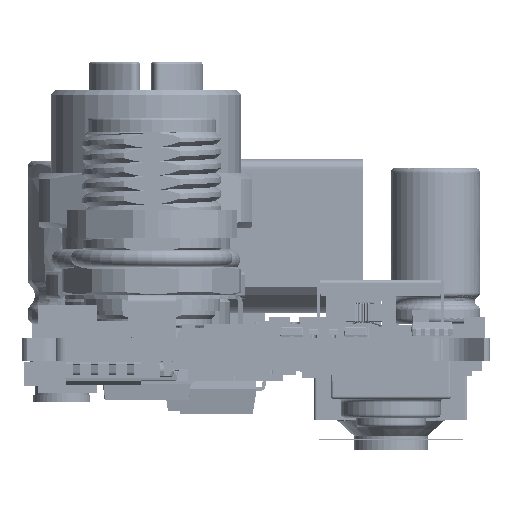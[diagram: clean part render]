
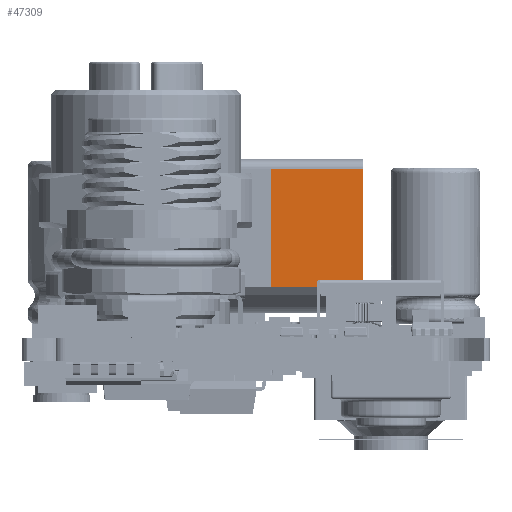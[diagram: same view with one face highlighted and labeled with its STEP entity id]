
A CAD part, left-side view. The second image highlights one B-rep face of the part: STEP entity #47309.
In plain terms, the highlighted planar face has unit normal (-1, 0, 0) as drawn and (1, 0, 0) by its records, which use the part's own axes.
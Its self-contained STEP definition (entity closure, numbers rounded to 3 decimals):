
#47226 = VERTEX_POINT('',#47227);
#47227 = CARTESIAN_POINT('',(6.4,6.5,0.));
#47233 = EDGE_CURVE('',#47226,#47234,#47236,.T.);
#47234 = VERTEX_POINT('',#47235);
#47235 = CARTESIAN_POINT('',(6.4,0.,0.));
#47236 = LINE('',#47237,#47238);
#47237 = CARTESIAN_POINT('',(6.4,6.5,0.));
#47238 = VECTOR('',#47239,1.);
#47239 = DIRECTION('',(0.,-1.,0.));
#47309 = ADVANCED_FACE('',(#47310),#47335,.F.);
#47310 = FACE_BOUND('',#47311,.T.);
#47311 = EDGE_LOOP('',(#47312,#47320,#47321,#47329));
#47312 = ORIENTED_EDGE('',*,*,#47313,.T.);
#47313 = EDGE_CURVE('',#47314,#47234,#47316,.T.);
#47314 = VERTEX_POINT('',#47315);
#47315 = CARTESIAN_POINT('',(6.4,0.,8.3));
#47316 = LINE('',#47317,#47318);
#47317 = CARTESIAN_POINT('',(6.4,0.,8.3));
#47318 = VECTOR('',#47319,1.);
#47319 = DIRECTION('',(0.,0.,-1.));
#47320 = ORIENTED_EDGE('',*,*,#47233,.F.);
#47321 = ORIENTED_EDGE('',*,*,#47322,.F.);
#47322 = EDGE_CURVE('',#47323,#47226,#47325,.T.);
#47323 = VERTEX_POINT('',#47324);
#47324 = CARTESIAN_POINT('',(6.4,6.5,8.3));
#47325 = LINE('',#47326,#47327);
#47326 = CARTESIAN_POINT('',(6.4,6.5,8.3));
#47327 = VECTOR('',#47328,1.);
#47328 = DIRECTION('',(0.,0.,-1.));
#47329 = ORIENTED_EDGE('',*,*,#47330,.T.);
#47330 = EDGE_CURVE('',#47323,#47314,#47331,.T.);
#47331 = LINE('',#47332,#47333);
#47332 = CARTESIAN_POINT('',(6.4,6.5,8.3));
#47333 = VECTOR('',#47334,1.);
#47334 = DIRECTION('',(0.,-1.,0.));
#47335 = PLANE('',#47336);
#47336 = AXIS2_PLACEMENT_3D('',#47337,#47338,#47339);
#47337 = CARTESIAN_POINT('',(6.4,6.5,8.3));
#47338 = DIRECTION('',(-1.,0.,0.));
#47339 = DIRECTION('',(0.,0.,1.));
